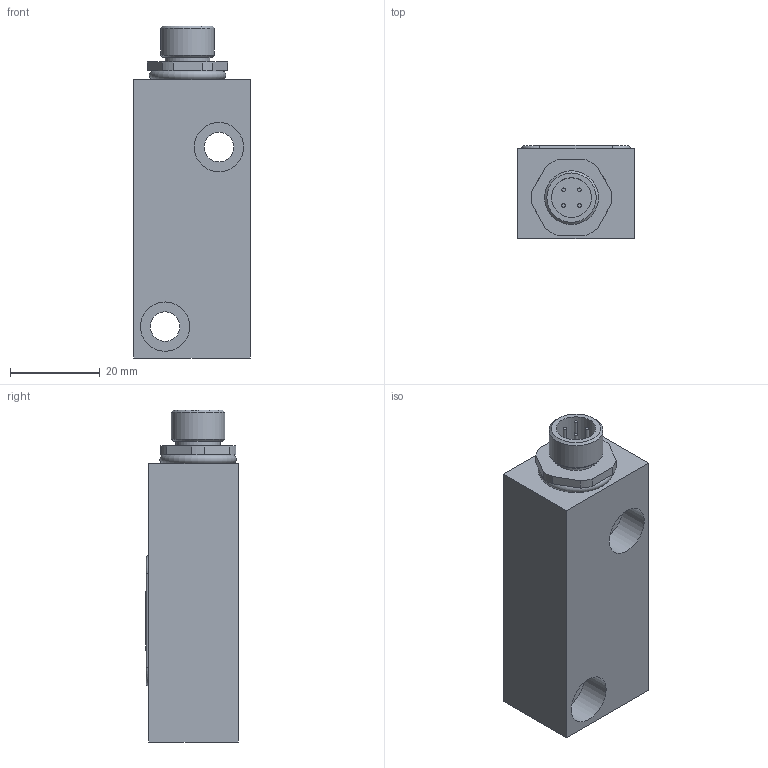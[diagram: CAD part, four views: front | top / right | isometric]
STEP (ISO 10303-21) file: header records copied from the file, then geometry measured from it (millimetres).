
FILE_DESCRIPTION(/* description */ ('Alibre Inc.'),/* implementation_level */ '2;1');
FILE_NAME(/* name */ 'export0',/* time_stamp */ '2012-11-29T15:09:12+01:00',/* author */ (''),/* organization */ (''),/* preprocessor_version */ 'ST-DEVELOPER v10',/* originating_system */ 'Alibre',/* authorisation */ '');
FILE_SCHEMA (('AUTOMOTIVE_DESIGN'));
Length unit declared in the file: centimetre
Bounding box: 26 x 20.7 x 74 mm (x, y, z)
Volume: 30940.7 mm3; surface area: 9670.7 mm2
Topology: 1 solids, 2 shells, 94 faces, 209 edges, 134 vertices
Faces by surface type: plane 45, cylinder 38, torus 9, cone 2
Full cylindrical faces by diameter (mm): 0.8 x4, 6.6 x2, 8.837 x1, 10 x1, 11 x2, 12 x1, 14.376 x1
Entity records: 2392 total; most frequent: CARTESIAN_POINT 398, ORIENTED_EDGE 384, DIRECTION 379, EDGE_CURVE 192, AXIS2_PLACEMENT_3D 162, VERTEX_POINT 132, EDGE_LOOP 128, FACE_BOUND 128
